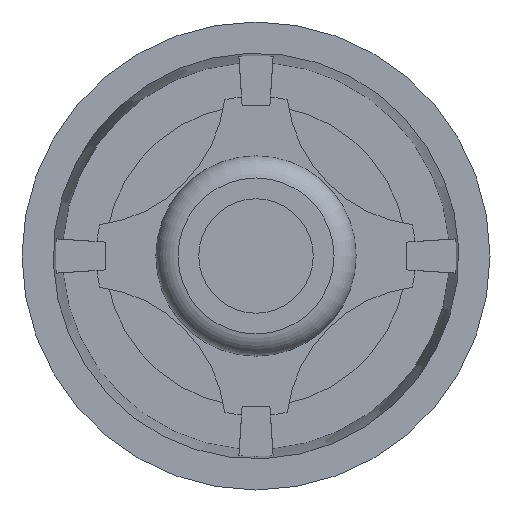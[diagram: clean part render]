
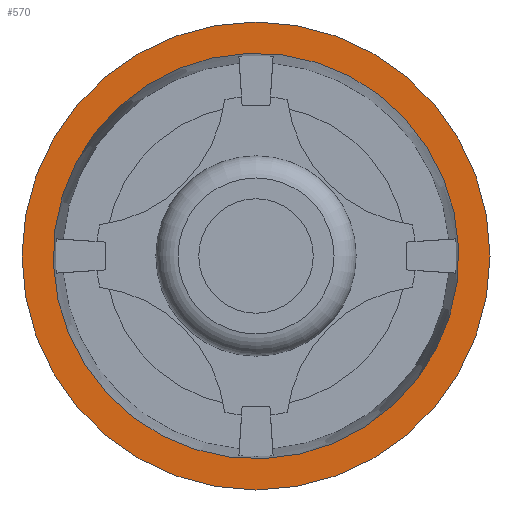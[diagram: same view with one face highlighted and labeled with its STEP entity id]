
A CAD part, front view. The second image highlights one B-rep face of the part: STEP entity #570.
In plain terms, the highlighted planar face has unit normal (0, -1, 0).
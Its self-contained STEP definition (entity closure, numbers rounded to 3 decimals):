
#570=ADVANCED_FACE('',(#10420,#10422),#10424,.T.);
#10420=FACE_BOUND('',#10421,.T.);
#10421=EDGE_LOOP('',(#17358));
#10422=FACE_BOUND('',#10423,.T.);
#10423=EDGE_LOOP('',(#17359));
#10424=PLANE('',#10425);
#10425=AXIS2_PLACEMENT_3D('',#10426,#10427,#10428);
#10426=CARTESIAN_POINT('',(3126.501,1694.472,0.));
#10427=DIRECTION('',(0.,-1.,0.));
#10428=DIRECTION('',(0.,0.,-1.));
#17358=ORIENTED_EDGE('',*,*,#22407,.T.);
#17359=ORIENTED_EDGE('',*,*,#22329,.F.);
#22329=EDGE_CURVE('',#25798,#25798,#25799,.T.);
#22407=EDGE_CURVE('',#25917,#25917,#25918,.T.);
#25798=VERTEX_POINT('',#33957);
#25799=CIRCLE('',#33958,58.5);
#25917=VERTEX_POINT('',#34356);
#25918=CIRCLE('',#34357,67.5);
#33957=CARTESIAN_POINT('',(3187.522,1694.472,-58.446));
#33958=AXIS2_PLACEMENT_3D('',#33959,#33960,#33961);
#33959=CARTESIAN_POINT('',(3185.001,1694.472,0.));
#33960=DIRECTION('',(0.,-1.,0.));
#33961=DIRECTION('',(-1.,0.,0.));
#34356=CARTESIAN_POINT('',(3252.501,1694.472,0.));
#34357=AXIS2_PLACEMENT_3D('',#34358,#34359,#34360);
#34358=CARTESIAN_POINT('',(3185.001,1694.472,0.));
#34359=DIRECTION('',(0.,-1.,0.));
#34360=DIRECTION('',(-1.,0.,0.));
